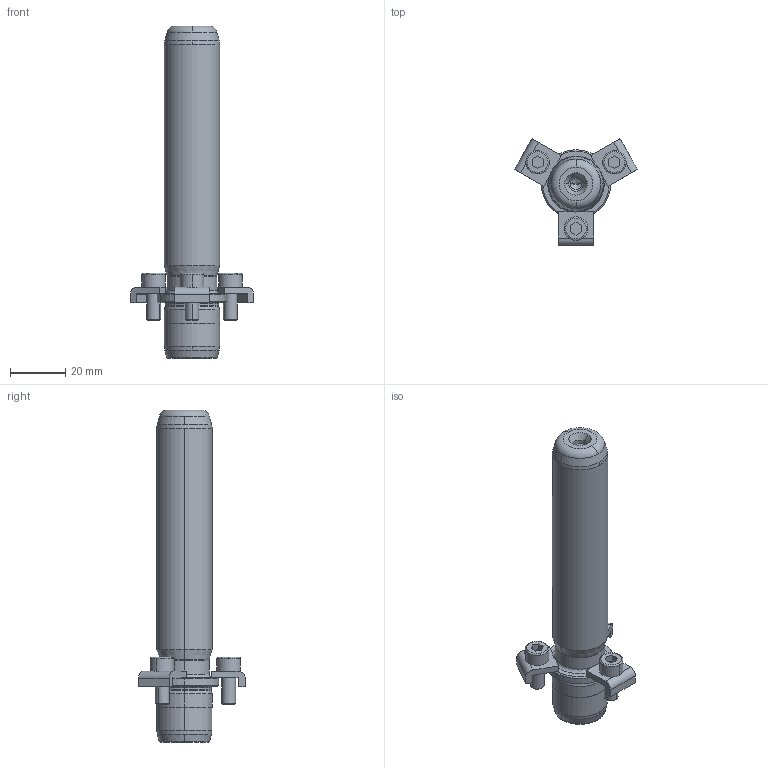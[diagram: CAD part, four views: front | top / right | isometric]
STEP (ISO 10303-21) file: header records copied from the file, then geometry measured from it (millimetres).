
FILE_DESCRIPTION((''),'2;1');
FILE_NAME('P21_020_100.stp','2008-12-18T10:56:00',(''),(''),'Mechanical Desktop 2009','Mechanical Desktop 2009',', , ');
FILE_SCHEMA(('CONFIG_CONTROL_DESIGN'));
Length unit declared in the file: millimetre
Products named in the file (2): Product; blmdl1
Assembly tree (1 placements, depth 2):
  Product
    blmdl1
Bounding box: 44.46 x 38.5 x 120 mm (x, y, z)
Volume: 39257.7 mm3; surface area: 11642.9 mm2
Topology: 7 solids, 7 shells, 169 faces, 417 edges, 269 vertices
Faces by surface type: plane 62, cylinder 47, cone 32, bspline 18, torus 10
Entity records: 5881 total; most frequent: CARTESIAN_POINT 1645, DIRECTION 936, ORIENTED_EDGE 826, EDGE_CURVE 413, AXIS2_PLACEMENT_3D 370, VERTEX_POINT 269, CIRCLE 217, VECTOR 196
